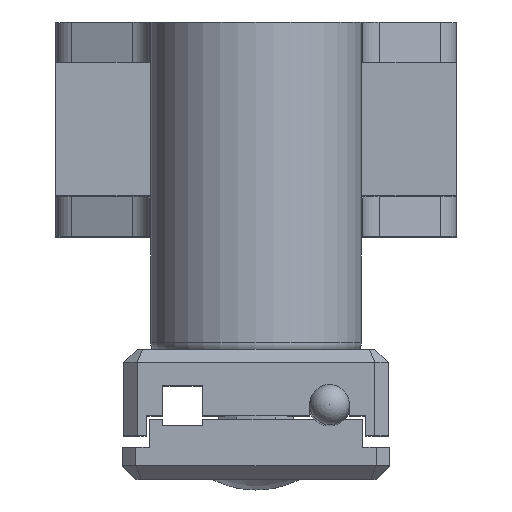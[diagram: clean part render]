
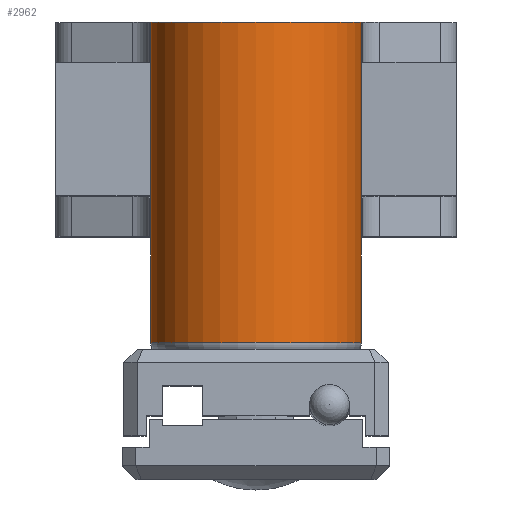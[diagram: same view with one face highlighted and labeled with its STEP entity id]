
A CAD part, top view. The second image highlights one B-rep face of the part: STEP entity #2962.
In plain terms, the highlighted cylindrical face has radius 7.9 mm (diameter 15.8 mm), a full revolution.
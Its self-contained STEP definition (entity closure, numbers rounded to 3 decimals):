
#417=FACE_OUTER_BOUND('',#604,.T.);
#604=EDGE_LOOP('',(#2628,#2629,#2630,#2631,#2632,#2633,#2634));
#896=LINE('',#4925,#1172);
#897=LINE('',#4927,#1173);
#898=LINE('',#4931,#1174);
#1172=VECTOR('',#4037,7.9);
#1173=VECTOR('',#4038,10.);
#1174=VECTOR('',#4041,10.);
#1272=CIRCLE('',#3285,7.9);
#1276=CIRCLE('',#3291,7.9);
#1277=CIRCLE('',#3292,7.9);
#1521=VERTEX_POINT('',#4915);
#1524=VERTEX_POINT('',#4924);
#1525=VERTEX_POINT('',#4926);
#1526=VERTEX_POINT('',#4928);
#1527=VERTEX_POINT('',#4930);
#1895=EDGE_CURVE('',#1521,#1521,#1272,.T.);
#1899=EDGE_CURVE('',#1521,#1524,#896,.T.);
#1900=EDGE_CURVE('',#1525,#1524,#897,.T.);
#1901=EDGE_CURVE('',#1526,#1525,#1276,.T.);
#1902=EDGE_CURVE('',#1526,#1527,#898,.T.);
#1903=EDGE_CURVE('',#1524,#1527,#1277,.T.);
#2628=ORIENTED_EDGE('',*,*,#1895,.F.);
#2629=ORIENTED_EDGE('',*,*,#1899,.T.);
#2630=ORIENTED_EDGE('',*,*,#1900,.F.);
#2631=ORIENTED_EDGE('',*,*,#1901,.F.);
#2632=ORIENTED_EDGE('',*,*,#1902,.T.);
#2633=ORIENTED_EDGE('',*,*,#1903,.F.);
#2634=ORIENTED_EDGE('',*,*,#1899,.F.);
#2818=CYLINDRICAL_SURFACE('',#3290,7.9);
#2962=ADVANCED_FACE('',(#417),#2818,.T.);
#3285=AXIS2_PLACEMENT_3D('',#4916,#4025,#4026);
#3290=AXIS2_PLACEMENT_3D('',#4923,#4035,#4036);
#3291=AXIS2_PLACEMENT_3D('',#4929,#4039,#4040);
#3292=AXIS2_PLACEMENT_3D('',#4932,#4042,#4043);
#4025=DIRECTION('center_axis',(0.,0.,1.));
#4026=DIRECTION('ref_axis',(-1.,0.,0.));
#4035=DIRECTION('center_axis',(0.,0.,1.));
#4036=DIRECTION('ref_axis',(-1.,0.,0.));
#4037=DIRECTION('',(0.,0.,-1.));
#4038=DIRECTION('',(0.,0.,1.));
#4039=DIRECTION('center_axis',(0.,0.,-1.));
#4040=DIRECTION('ref_axis',(-1.,0.,0.));
#4041=DIRECTION('',(0.,0.,1.));
#4042=DIRECTION('center_axis',(0.,0.,-1.));
#4043=DIRECTION('ref_axis',(-1.,0.,0.));
#4915=CARTESIAN_POINT('',(7.9,4.5,24.));
#4916=CARTESIAN_POINT('Origin',(0.,4.5,24.));
#4923=CARTESIAN_POINT('Origin',(0.,4.5,0.));
#4924=CARTESIAN_POINT('',(7.9,4.5,16.));
#4925=CARTESIAN_POINT('',(7.9,4.5,0.));
#4926=CARTESIAN_POINT('',(7.9,4.5,0.));
#4927=CARTESIAN_POINT('',(7.9,4.5,0.));
#4928=CARTESIAN_POINT('',(-7.9,4.5,0.));
#4929=CARTESIAN_POINT('Origin',(0.,4.5,0.));
#4930=CARTESIAN_POINT('',(-7.9,4.5,16.));
#4931=CARTESIAN_POINT('',(-7.9,4.5,0.));
#4932=CARTESIAN_POINT('Origin',(0.,4.5,16.));
